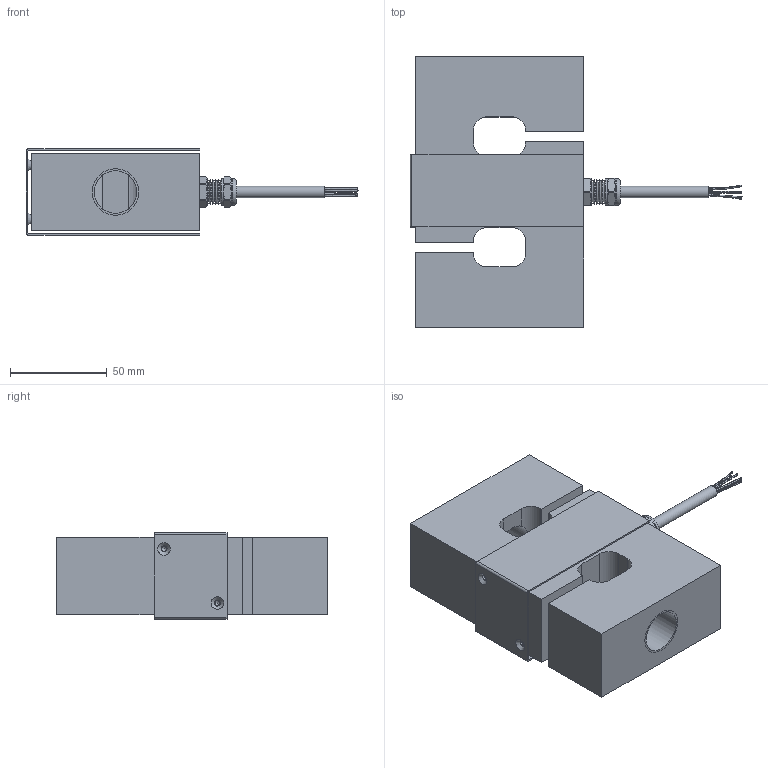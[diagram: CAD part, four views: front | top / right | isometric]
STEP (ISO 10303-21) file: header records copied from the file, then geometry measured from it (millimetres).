
FILE_DESCRIPTION(/* description */ (''),/* implementation_level */ '2;1');
FILE_NAME(/* name */ 'F:/Flintec Files/Working/UXT potential cad error/Final/0086740 UXT 7500kg.step',/* time_stamp */ '2021-02-04T11:55:26+00:00',/* author */ (''),/* organization */ (''),/* preprocessor_version */ 'ST-DEVELOPER v18.1',/* originating_system */ 'Autodesk Translation Framework v9.7.1.1290',/* authorisation */ '');
FILE_SCHEMA (('AUTOMOTIVE_DESIGN { 1 0 10303 214 3 1 1 }'));
Length unit declared in the file: millimetre
Products named in the file (5): 0086740; 0042350; 0080122; 0084559; Component8
Assembly tree (4 placements, depth 2):
  0086740
    0042350
    0080122
    0084559
    Component8
Bounding box: 171.65 x 140 x 44.52 mm (x, y, z)
Volume: 420630.8 mm3; surface area: 74755.9 mm2
Topology: 5 solids, 5 shells, 283 faces, 725 edges, 579 vertices
Faces by surface type: plane 181, cone 49, cylinder 38, bspline 12, torus 3
Full cylindrical faces by diameter (mm): 2.5 x2, 3.1 x2, 6 x1, 7.62 x2, 11.316 x2, 12.695 x1, 13.97 x2, 22 x2
Entity records: 10870 total; most frequent: CARTESIAN_POINT 3693, ORIENTED_EDGE 1446, DIRECTION 1383, EDGE_CURVE 723, VERTEX_POINT 579, AXIS2_PLACEMENT_3D 562, EDGE_LOOP 424, FACE_OUTER_BOUND 283
